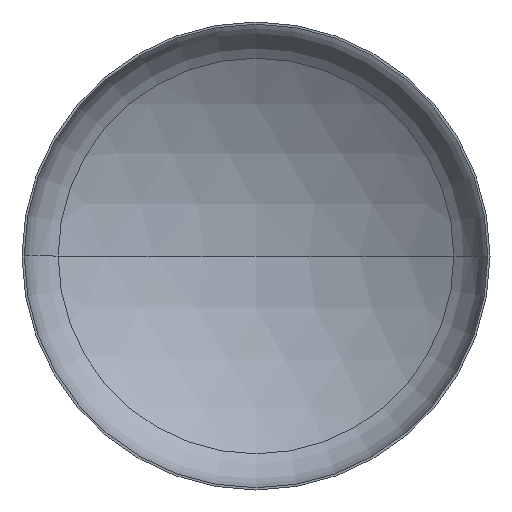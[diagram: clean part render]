
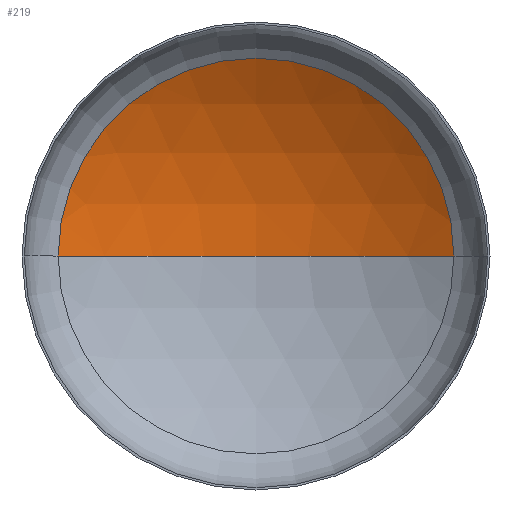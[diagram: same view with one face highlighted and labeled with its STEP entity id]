
A CAD part, front view. The second image highlights one B-rep face of the part: STEP entity #219.
In plain terms, the highlighted spherical face has radius 6400 mm.
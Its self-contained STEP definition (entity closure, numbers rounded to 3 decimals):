
#8 = DIRECTION ( 'NONE',  ( 0., 0., -1. ) ) ;
#37 = VERTEX_POINT ( 'NONE', #351 ) ;
#42 = AXIS2_PLACEMENT_3D ( 'NONE', #371, #8, #175 ) ;
#50 = ORIENTED_EDGE ( 'NONE', *, *, #147, .T. ) ;
#62 = ORIENTED_EDGE ( 'NONE', *, *, #149, .T. ) ;
#64 = VERTEX_POINT ( 'NONE', #233 ) ;
#77 = DIRECTION ( 'NONE',  ( 1., 0., 0. ) ) ;
#90 = AXIS2_PLACEMENT_3D ( 'NONE', #182, #183, #77 ) ;
#92 = AXIS2_PLACEMENT_3D ( 'NONE', #211, #213, #204 ) ;
#99 = AXIS2_PLACEMENT_3D ( 'NONE', #186, #290, #286 ) ;
#109 = VERTEX_POINT ( 'NONE', #328 ) ;
#125 = ORIENTED_EDGE ( 'NONE', *, *, #151, .F. ) ;
#127 = EDGE_LOOP ( 'NONE', ( #125, #62, #50 ) ) ;
#147 = EDGE_CURVE ( 'NONE', #37, #109, #323, .T. ) ;
#149 = EDGE_CURVE ( 'NONE', #64, #37, #194, .T. ) ;
#151 = EDGE_CURVE ( 'NONE', #64, #109, #369, .T. ) ;
#169 = SPHERICAL_SURFACE ( 'NONE', #42, 6400. ) ;
#175 = DIRECTION ( 'NONE',  ( -1., 0., 0. ) ) ;
#182 = CARTESIAN_POINT ( 'NONE',  ( 0., -4269.2, 0. ) ) ;
#183 = DIRECTION ( 'NONE',  ( 0., 0., 1. ) ) ;
#186 = CARTESIAN_POINT ( 'NONE',  ( 0., 1164.239, 0. ) ) ;
#194 = CIRCLE ( 'NONE', #92, 6400. ) ;
#204 = DIRECTION ( 'NONE',  ( -1., 0., 0. ) ) ;
#211 = CARTESIAN_POINT ( 'NONE',  ( 0., -4269.2, 0. ) ) ;
#213 = DIRECTION ( 'NONE',  ( 0., 0., -1. ) ) ;
#219 = ADVANCED_FACE ( 'NONE', ( #300 ), #169, .F. ) ;
#233 = CARTESIAN_POINT ( 'NONE',  ( 0., 2130.8, 0. ) ) ;
#286 = DIRECTION ( 'NONE',  ( 1., 0., 0. ) ) ;
#290 = DIRECTION ( 'NONE',  ( 0., -1., 0. ) ) ;
#300 = FACE_OUTER_BOUND ( 'NONE', #127, .T. ) ;
#323 = CIRCLE ( 'NONE', #99, 3381.973 ) ;
#328 = CARTESIAN_POINT ( 'NONE',  ( -3381.973, 1164.239, 0. ) ) ;
#351 = CARTESIAN_POINT ( 'NONE',  ( 3381.973, 1164.239, 0. ) ) ;
#369 = CIRCLE ( 'NONE', #90, 6400. ) ;
#371 = CARTESIAN_POINT ( 'NONE',  ( 0., -4269.2, 0. ) ) ;
